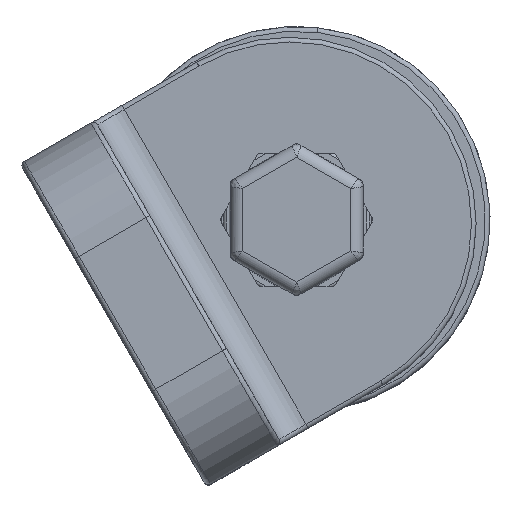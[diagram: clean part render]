
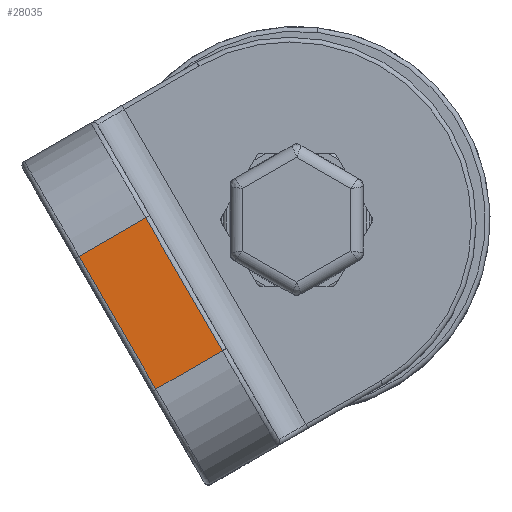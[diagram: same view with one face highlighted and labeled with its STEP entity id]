
A CAD part, top view. The second image highlights one B-rep face of the part: STEP entity #28035.
In plain terms, the highlighted planar face has unit normal (0, 0, 1).
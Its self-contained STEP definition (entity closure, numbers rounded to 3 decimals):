
#1742=DIRECTION('',(0.5,-0.866,0.));
#1743=VECTOR('',#1742,9.8);
#1744=CARTESIAN_POINT('',(-9.64,0.092,54.55));
#1745=LINE('',#1744,#1743);
#1749=DIRECTION('',(-0.866,-0.5,0.));
#1750=VECTOR('',#1749,4.9);
#1751=CARTESIAN_POINT('',(-4.74,-8.395,54.55));
#1752=LINE('',#1751,#1750);
#1756=DIRECTION('',(-0.5,0.866,0.));
#1757=VECTOR('',#1756,9.8);
#1758=CARTESIAN_POINT('',(-8.984,-10.845,54.55));
#1759=LINE('',#1758,#1757);
#1763=DIRECTION('',(0.866,0.5,0.));
#1764=VECTOR('',#1763,4.9);
#1765=CARTESIAN_POINT('',(-13.884,-2.358,54.55));
#1766=LINE('',#1765,#1764);
#24919=CARTESIAN_POINT('',(-9.64,0.092,54.55));
#24920=VERTEX_POINT('',#24919);
#24923=CARTESIAN_POINT('',(-4.74,-8.395,54.55));
#24924=VERTEX_POINT('',#24923);
#24945=CARTESIAN_POINT('',(-13.884,-2.358,54.55));
#24947=VERTEX_POINT('',#24945);
#24951=CARTESIAN_POINT('',(-8.984,-10.845,54.55));
#24952=VERTEX_POINT('',#24951);
#28023=CARTESIAN_POINT('',(-5.743,-17.057,54.55));
#28024=DIRECTION('',(0.,0.,1.));
#28025=DIRECTION('',(0.866,0.5,0.));
#28026=AXIS2_PLACEMENT_3D('',#28023,#28024,#28025);
#28027=PLANE('',#28026);
#28028=ORIENTED_EDGE('',*,*,#28009,.T.);
#28029=ORIENTED_EDGE('',*,*,#27970,.T.);
#28030=ORIENTED_EDGE('',*,*,#27009,.T.);
#28032=ORIENTED_EDGE('',*,*,#28031,.T.);
#28033=EDGE_LOOP('',(#28028,#28029,#28030,#28032));
#28034=FACE_OUTER_BOUND('',#28033,.F.);
#27009=EDGE_CURVE('',#24952,#24947,#1759,.T.);
#27970=EDGE_CURVE('',#24924,#24952,#1752,.T.);
#28009=EDGE_CURVE('',#24920,#24924,#1745,.T.);
#28031=EDGE_CURVE('',#24947,#24920,#1766,.T.);
#28035=ADVANCED_FACE('',(#28034),#28027,.T.);
